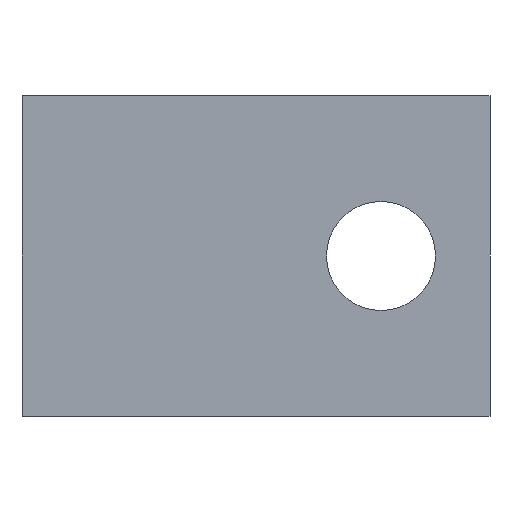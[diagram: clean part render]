
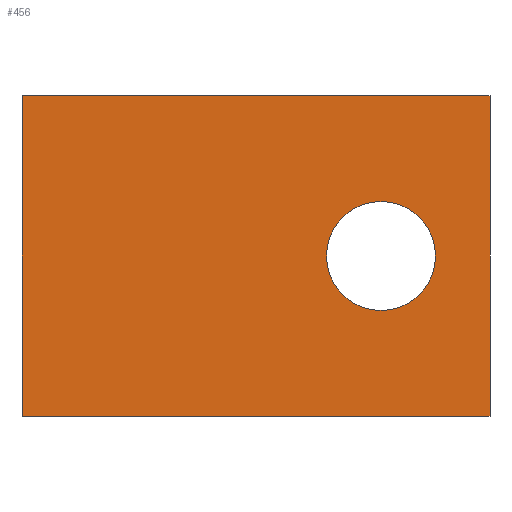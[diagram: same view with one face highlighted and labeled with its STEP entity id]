
A CAD part, front view. The second image highlights one B-rep face of the part: STEP entity #456.
In plain terms, the highlighted planar face has unit normal (0, -1, 0).
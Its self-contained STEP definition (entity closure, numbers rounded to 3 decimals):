
#21=DIRECTION('',(1.,0.,0.));
#22=VECTOR('',#21,36.5);
#23=CARTESIAN_POINT('',(-19.,0.,-12.5));
#24=LINE('',#23,#22);
#67=DIRECTION('',(0.,0.,1.));
#68=VECTOR('',#67,25.);
#69=CARTESIAN_POINT('',(-19.,0.,-12.5));
#70=LINE('',#69,#68);
#71=CARTESIAN_POINT('',(9.,0.,0.));
#72=DIRECTION('',(0.,1.,0.));
#73=DIRECTION('',(1.,0.,0.));
#74=AXIS2_PLACEMENT_3D('',#71,#72,#73);
#76=CARTESIAN_POINT('',(9.,0.,0.));
#77=DIRECTION('',(0.,1.,0.));
#78=DIRECTION('',(-1.,0.,0.));
#79=AXIS2_PLACEMENT_3D('',#76,#77,#78);
#281=DIRECTION('',(1.,0.,0.));
#282=VECTOR('',#281,36.5);
#283=CARTESIAN_POINT('',(-19.,0.,12.5));
#284=LINE('',#283,#282);
#293=DIRECTION('',(0.,0.,1.));
#294=VECTOR('',#293,25.);
#295=CARTESIAN_POINT('',(17.5,0.,-12.5));
#296=LINE('',#295,#294);
#305=CARTESIAN_POINT('',(-19.,0.,-12.5));
#306=VERTEX_POINT('',#305);
#307=CARTESIAN_POINT('',(17.5,0.,-12.5));
#308=VERTEX_POINT('',#307);
#315=CARTESIAN_POINT('',(-19.,0.,12.5));
#316=VERTEX_POINT('',#315);
#317=CARTESIAN_POINT('',(17.5,0.,12.5));
#318=VERTEX_POINT('',#317);
#339=CARTESIAN_POINT('',(13.25,0.,0.));
#340=CARTESIAN_POINT('',(4.75,0.,0.));
#341=VERTEX_POINT('',#339);
#342=VERTEX_POINT('',#340);
#437=CARTESIAN_POINT('',(-19.,0.,-12.5));
#438=DIRECTION('',(0.,-1.,0.));
#439=DIRECTION('',(1.,0.,0.));
#440=AXIS2_PLACEMENT_3D('',#437,#438,#439);
#441=PLANE('',#440);
#442=ORIENTED_EDGE('',*,*,#382,.F.);
#444=ORIENTED_EDGE('',*,*,#443,.T.);
#446=ORIENTED_EDGE('',*,*,#445,.T.);
#448=ORIENTED_EDGE('',*,*,#447,.F.);
#449=EDGE_LOOP('',(#442,#444,#446,#448));
#450=FACE_OUTER_BOUND('',#449,.F.);
#451=ORIENTED_EDGE('',*,*,#427,.F.);
#453=ORIENTED_EDGE('',*,*,#452,.F.);
#454=EDGE_LOOP('',(#451,#453));
#455=FACE_BOUND('',#454,.F.);
#456=ADVANCED_FACE('',(#450,#455),#441,.T.);
#75=CIRCLE('',#74,4.25);
#80=CIRCLE('',#79,4.25);
#382=EDGE_CURVE('',#306,#308,#24,.T.);
#427=EDGE_CURVE('',#341,#342,#75,.T.);
#443=EDGE_CURVE('',#306,#316,#70,.T.);
#445=EDGE_CURVE('',#316,#318,#284,.T.);
#447=EDGE_CURVE('',#308,#318,#296,.T.);
#452=EDGE_CURVE('',#342,#341,#80,.T.);
